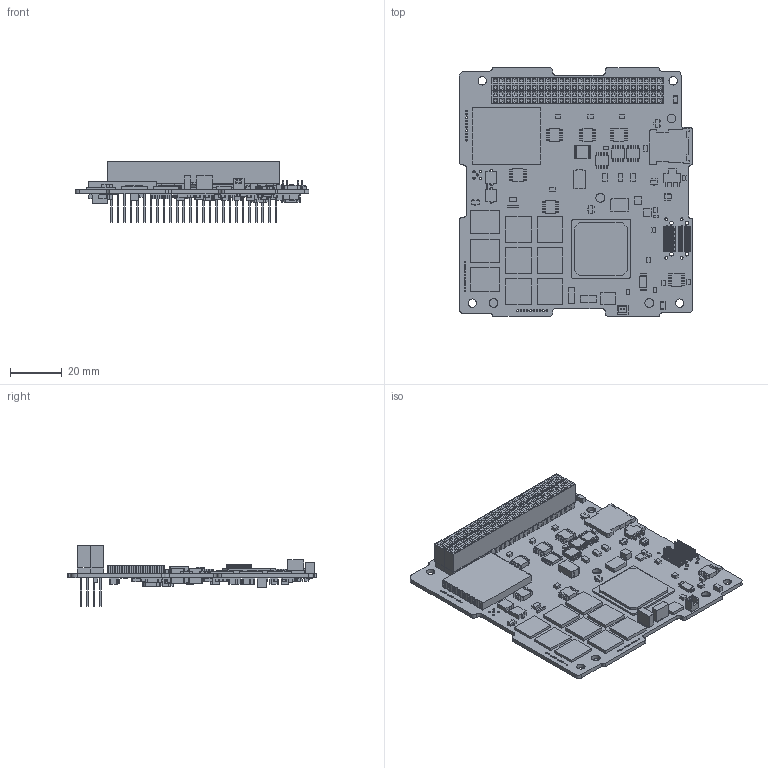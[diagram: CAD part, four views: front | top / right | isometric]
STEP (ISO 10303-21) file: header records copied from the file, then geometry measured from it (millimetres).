
FILE_DESCRIPTION (( 'STEP AP214' ), '1' );
FILE_NAME ('3D-25-02929 RevJ Assembly_defeature.STEP', '2022-10-19T09:30:29', ( '' ), ( '' ), 'SwSTEP 2.0', 'SolidWorks 2021', '' );
FILE_SCHEMA (( 'AUTOMOTIVE_DESIGN' ));
Length unit declared in the file: millimetre
Products named in the file (1): 3D-25-02929 RevJ Assembly_defeature
Bounding box: 90.17 x 95.89 x 23.24 mm (x, y, z)
Volume: 26561.8 mm3; surface area: 42000.5 mm2
Topology: 246 solids, 246 shells, 7348 faces, 20671 edges, 13608 vertices
Faces by surface type: plane 6439, cylinder 836, bspline 73
Entity records: 237742 total; most frequent: CARTESIAN_POINT 45148, ORIENTED_EDGE 41342, DIRECTION 35892, EDGE_CURVE 20671, LINE 17996, VECTOR 17996, VERTEX_POINT 13608, AXIS2_PLACEMENT_3D 8948
